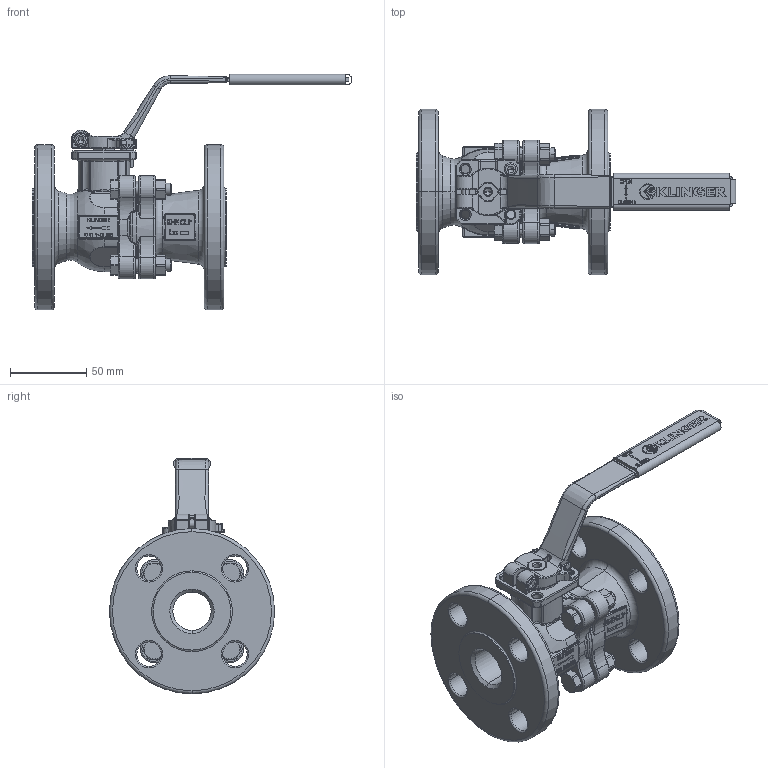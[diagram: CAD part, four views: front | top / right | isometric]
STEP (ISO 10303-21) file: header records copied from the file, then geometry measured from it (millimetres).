
FILE_DESCRIPTION((''),'2;1');
FILE_NAME('KHEFS-1-VFS-1-C150PKK','2015-08-10T',('mahrhauserh'),('RAND'),'PRO/ENGINEER BY PARAMETRIC TECHNOLOGY CORPORATION, 2013410','PRO/ENGINEER BY PARAMETRIC TECHNOLOGY CORPORATION, 2013410','');
FILE_SCHEMA(('CONFIG_CONTROL_DESIGN'));
Products named in the file (1): KHEFS-1-VFS-1-C150PKK
Bounding box: 208.95 x 108 x 154.05 mm (x, y, z)
Volume: 436775 mm3; surface area: 126034.9 mm2
Topology: 1 solids, 1 shells, 3047 faces, 7790 edges, 4856 vertices
Faces by surface type: plane 1642, cylinder 496, torus 341, bspline 323, cone 204, sphere 41
Entity records: 121969 total; most frequent: CARTESIAN_POINT 49714, ORIENTED_EDGE 15552, DIRECTION 14402, EDGE_CURVE 7776, VERTEX_POINT 4856, AXIS2_PLACEMENT_3D 4810, VECTOR 4782, LINE 4782
